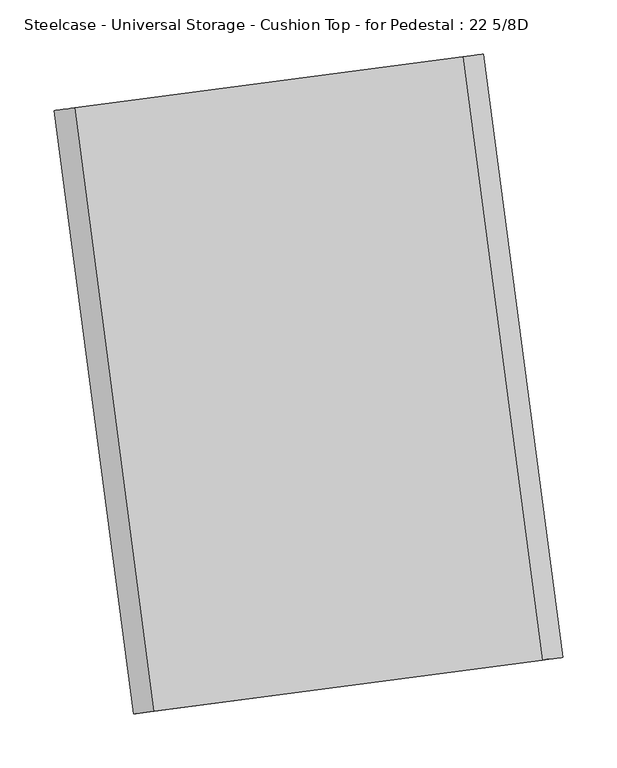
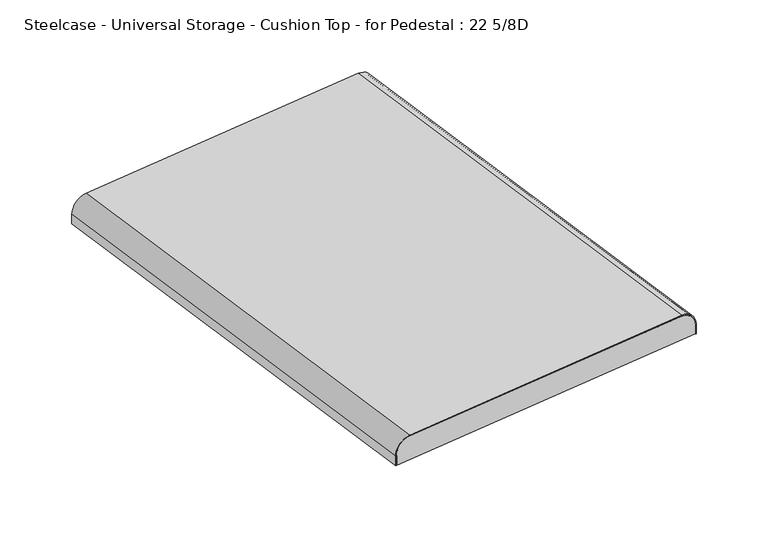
"""IFC4 building model written with IfcOpenShell, lengths in millimetres: furniture geometry, Steelcase - Universal Storage - Cushion Top - for Pedestal : 22 5/8D."""

from ifc_helpers import new_model, si_unit, point, frame, frame_2d, origin, place, context, project, spatial, polyline, circle_curve, trimmed, segment, composite_curve, outline, extrude, source, transform, mapped, element, save


def steelcase_universal_storage_cushion_top_for_pedestal_22_5_8d_d24fa8d1(model_context):
    return source(origin(), model_context, "Body", "SweptSolid", [
        extrude(outline(composite_curve([segment(polyline([(12.4883434, 0.0), (12.4883434, -398.1718688), (0.9825059, -398.1718688)]), True, "CONTINUOUS"), segment(trimmed(circle_curve(frame_2d((0.9825059, -379.1218688)), 19.05), [point((0.9825059, -398.1718688))], [point((-18.0674941, -379.1218688))], False, "CARTESIAN"), True, "CONTINUOUS"), segment(polyline([(-18.0674941, -379.1218688), (-18.0674941, -18.0674941)]), True, "CONTINUOUS"), segment(trimmed(circle_curve(frame_2d((0.0, -18.0674941)), 18.0674941), [point((-18.0674941, -18.0674941))], [point((0.0, 0.0))], False, "CARTESIAN"), True, "CONTINUOUS"), segment(polyline([(0.0, 0.0), (12.4883434, 0.0)]), True, "CONTINUOUS")], self_intersect=False)), frame((74.6185321, -557.8930117, 545.8883434), z_axis=(-0.13053051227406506, 0.9914442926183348, 0.0), x_axis=(0.0, 0.0, -1.0)), (0.0, 0.0, 1.0), 543.1750172),
        extrude(outline(composite_curve([segment(polyline([(12.5218375, 0.0), (12.5218375, -1.016), (0.0334941, -1.016)]), True, "CONTINUOUS"), segment(trimmed(circle_curve(frame_2d((0.0334941, -19.0834941)), 18.0674941), [point((0.0334941, -1.016))], [point((-18.034, -19.0834941))], True, "CARTESIAN"), True, "CONTINUOUS"), segment(polyline([(-18.034, -19.0834941), (-18.034, -380.2817351)]), True, "CONTINUOUS"), segment(trimmed(circle_curve(frame_2d((1.016, -380.2817351)), 19.05), [point((-18.034, -380.2817351))], [point((1.016, -399.3317352))], True, "CARTESIAN"), True, "CONTINUOUS"), segment(polyline([(1.016, -399.3317352), (12.5218375, -399.3317352), (12.5218375, -400.3477352), (0.0538401, -400.3477352)]), True, "CONTINUOUS"), segment(trimmed(circle_curve(frame_2d((-0.0076377, -381.3054545)), 19.0423799), [point((0.0538401, -400.3477352))], [point((-19.05, -381.2795517))], False, "CARTESIAN"), True, "CONTINUOUS"), segment(polyline([(-19.05, -381.2795517), (-19.05, -19.05)]), True, "CONTINUOUS"), segment(trimmed(circle_curve(frame_2d((0.0, -19.05)), 19.05), [point((-19.05, -19.05))], [point((0.0, 0.0))], False, "CARTESIAN"), True, "CONTINUOUS"), segment(polyline([(0.0, 0.0), (12.5218375, 0.0)]), True, "CONTINUOUS")], self_intersect=False)), frame((73.4685892, -558.0444097, 545.9218375), z_axis=(-0.13053051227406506, 0.9914442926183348, 0.0), x_axis=(0.0, 0.0, -1.0)), (0.0, 0.0, 1.0), 562.2235172),
    ])


if __name__ == "__main__":
    model = new_model("IFC4")
    model_context = context("Model", 3, world=origin())
    ifc_project = project(units=[si_unit("LENGTHUNIT", "METRE", prefix="MILLI")], contexts=[model_context])
    site = spatial("IfcSite", under=ifc_project)
    building = spatial("IfcBuilding", under=site)
    placement = place(None, origin())
    steelcase_universal_storage_cushion_top_for_pedestal_22_5_8d_shape = steelcase_universal_storage_cushion_top_for_pedestal_22_5_8d_d24fa8d1(model_context)
    element("IfcFurniture", 1, ObjectType="Steelcase - Universal Storage - Cushion Top - for Pedestal : 22 5/8D", at=placement, inside=building, context=model_context, shape_type="MappedRepresentation", body=[
        mapped(steelcase_universal_storage_cushion_top_for_pedestal_22_5_8d_shape, transform((0.0, 0.0, 0.0), x_axis=(1.0, 0.0, 0.0), y_axis=(0.0, 1.0, 0.0), z_axis=(0.0, 0.0, 1.0))),
    ])
    save(model, "model.ifc")
